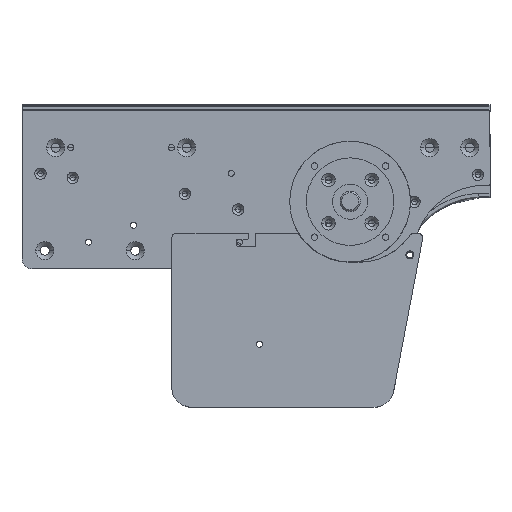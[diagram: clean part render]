
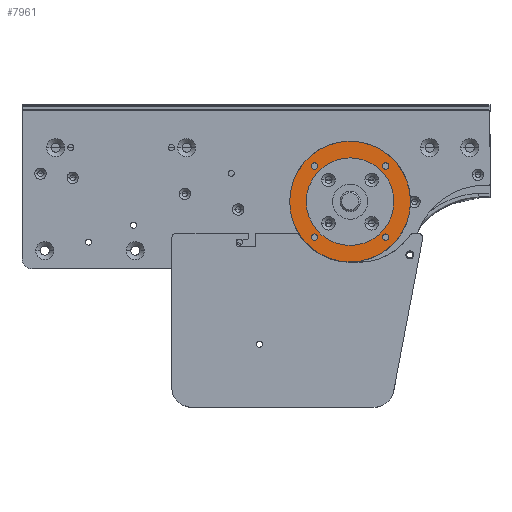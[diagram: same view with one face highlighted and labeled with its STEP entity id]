
A CAD part, top view. The second image highlights one B-rep face of the part: STEP entity #7961.
In plain terms, the highlighted planar face has unit normal (0, 0, 1).
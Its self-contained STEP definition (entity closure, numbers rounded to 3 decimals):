
#32 = VERTEX_POINT ( 'NONE', #13657 ) ;
#86 = CARTESIAN_POINT ( 'NONE',  ( 293.845, -18.342, 71. ) ) ;
#99 = VERTEX_POINT ( 'NONE', #9388 ) ;
#211 = CARTESIAN_POINT ( 'NONE',  ( 386.001, -53.698, 71. ) ) ;
#293 = DIRECTION ( 'NONE',  ( 0., 0., -1. ) ) ;
#768 = CARTESIAN_POINT ( 'NONE',  ( 361.356, -18.342, 71. ) ) ;
#1039 = CIRCLE ( 'NONE', #13085, 60. ) ;
#1254 = DIRECTION ( 'NONE',  ( 0., 0., 1. ) ) ;
#1768 = CARTESIAN_POINT ( 'NONE',  ( 326.001, -53.698, 71. ) ) ;
#1935 = CARTESIAN_POINT ( 'NONE',  ( 326.001, -53.698, 71. ) ) ;
#2038 = VERTEX_POINT ( 'NONE', #6461 ) ;
#2531 = DIRECTION ( 'NONE',  ( -1., 0., 0. ) ) ;
#2632 = CARTESIAN_POINT ( 'NONE',  ( 290.645, -89.053, 71. ) ) ;
#2872 = VERTEX_POINT ( 'NONE', #8657 ) ;
#3012 = DIRECTION ( 'NONE',  ( 1., 0., 0. ) ) ;
#3186 = ORIENTED_EDGE ( 'NONE', *, *, #9091, .F. ) ;
#3346 = DIRECTION ( 'NONE',  ( -1., 0., 0. ) ) ;
#3364 = ORIENTED_EDGE ( 'NONE', *, *, #11247, .F. ) ;
#3455 = DIRECTION ( 'NONE',  ( 0., 0., 1. ) ) ;
#3487 = FACE_BOUND ( 'NONE', #5211, .T. ) ;
#4020 = ORIENTED_EDGE ( 'NONE', *, *, #18579, .F. ) ;
#4091 = EDGE_CURVE ( 'NONE', #8716, #17312, #1039, .T. ) ;
#4130 = DIRECTION ( 'NONE',  ( -1., 0., 0. ) ) ;
#4363 = EDGE_CURVE ( 'NONE', #10760, #11851, #14616, .T. ) ;
#4668 = EDGE_LOOP ( 'NONE', ( #9325, #8023 ) ) ;
#4848 = EDGE_CURVE ( 'NONE', #32, #99, #10469, .T. ) ;
#4964 = PLANE ( 'NONE',  #11613 ) ;
#5201 = AXIS2_PLACEMENT_3D ( 'NONE', #768, #8577, #13114 ) ;
#5211 = EDGE_LOOP ( 'NONE', ( #3186, #3364 ) ) ;
#5217 = CARTESIAN_POINT ( 'NONE',  ( 290.645, -18.342, 71. ) ) ;
#5429 = CIRCLE ( 'NONE', #7716, 3.2 ) ;
#5478 = CARTESIAN_POINT ( 'NONE',  ( 361.356, -89.053, 71. ) ) ;
#5573 = CARTESIAN_POINT ( 'NONE',  ( 361.356, -18.342, 71. ) ) ;
#5660 = DIRECTION ( 'NONE',  ( 1., 0., 0. ) ) ;
#5804 = VERTEX_POINT ( 'NONE', #9200 ) ;
#5917 = FACE_OUTER_BOUND ( 'NONE', #8631, .T. ) ;
#6080 = DIRECTION ( 'NONE',  ( 1., 0., 0. ) ) ;
#6233 = VERTEX_POINT ( 'NONE', #86 ) ;
#6461 = CARTESIAN_POINT ( 'NONE',  ( 282.501, -53.698, 71. ) ) ;
#6647 = FACE_BOUND ( 'NONE', #4668, .T. ) ;
#6712 = DIRECTION ( 'NONE',  ( 0., 0., 1. ) ) ;
#6714 = CARTESIAN_POINT ( 'NONE',  ( 358.156, -89.053, 71. ) ) ;
#6751 = ORIENTED_EDGE ( 'NONE', *, *, #18811, .F. ) ;
#6768 = DIRECTION ( 'NONE',  ( 1., 0., 0. ) ) ;
#7007 = EDGE_LOOP ( 'NONE', ( #19967, #13844 ) ) ;
#7619 = FACE_BOUND ( 'NONE', #7007, .T. ) ;
#7716 = AXIS2_PLACEMENT_3D ( 'NONE', #5478, #10158, #14817 ) ;
#7784 = EDGE_CURVE ( 'NONE', #6233, #18716, #7874, .T. ) ;
#7874 = CIRCLE ( 'NONE', #14334, 3.2 ) ;
#7897 = CIRCLE ( 'NONE', #17172, 60. ) ;
#7961 = ADVANCED_FACE ( 'NONE', ( #12706, #7619, #10046, #6647, #3487, #5917 ), #4964, .F. ) ;
#8023 = ORIENTED_EDGE ( 'NONE', *, *, #19097, .F. ) ;
#8577 = DIRECTION ( 'NONE',  ( 0., 0., 1. ) ) ;
#8631 = EDGE_LOOP ( 'NONE', ( #6751, #15734 ) ) ;
#8657 = CARTESIAN_POINT ( 'NONE',  ( 369.501, -53.698, 71. ) ) ;
#8716 = VERTEX_POINT ( 'NONE', #211 ) ;
#8929 = CARTESIAN_POINT ( 'NONE',  ( 326.001, -53.698, 71. ) ) ;
#9091 = EDGE_CURVE ( 'NONE', #2872, #2038, #17272, .T. ) ;
#9131 = AXIS2_PLACEMENT_3D ( 'NONE', #1935, #3455, #15853 ) ;
#9200 = CARTESIAN_POINT ( 'NONE',  ( 364.556, -89.053, 71. ) ) ;
#9310 = EDGE_LOOP ( 'NONE', ( #12307, #4020 ) ) ;
#9325 = ORIENTED_EDGE ( 'NONE', *, *, #4848, .F. ) ;
#9388 = CARTESIAN_POINT ( 'NONE',  ( 358.156, -18.342, 71. ) ) ;
#10046 = FACE_BOUND ( 'NONE', #15963, .T. ) ;
#10101 = CARTESIAN_POINT ( 'NONE',  ( 290.645, -18.342, 71. ) ) ;
#10126 = DIRECTION ( 'NONE',  ( 0., 0., 1. ) ) ;
#10149 = EDGE_CURVE ( 'NONE', #5804, #11195, #18311, .T. ) ;
#10158 = DIRECTION ( 'NONE',  ( 0., 0., 1. ) ) ;
#10429 = AXIS2_PLACEMENT_3D ( 'NONE', #5573, #10126, #19206 ) ;
#10469 = CIRCLE ( 'NONE', #5201, 3.2 ) ;
#10545 = AXIS2_PLACEMENT_3D ( 'NONE', #10101, #16269, #13079 ) ;
#10760 = VERTEX_POINT ( 'NONE', #16160 ) ;
#11195 = VERTEX_POINT ( 'NONE', #6714 ) ;
#11247 = EDGE_CURVE ( 'NONE', #2038, #2872, #19201, .T. ) ;
#11613 = AXIS2_PLACEMENT_3D ( 'NONE', #1768, #293, #3346 ) ;
#11755 = ORIENTED_EDGE ( 'NONE', *, *, #10149, .F. ) ;
#11758 = EDGE_CURVE ( 'NONE', #11851, #10760, #19924, .T. ) ;
#11851 = VERTEX_POINT ( 'NONE', #19605 ) ;
#12082 = DIRECTION ( 'NONE',  ( 1., 0., 0. ) ) ;
#12125 = AXIS2_PLACEMENT_3D ( 'NONE', #13327, #18010, #5660 ) ;
#12307 = ORIENTED_EDGE ( 'NONE', *, *, #7784, .F. ) ;
#12706 = FACE_BOUND ( 'NONE', #9310, .T. ) ;
#13079 = DIRECTION ( 'NONE',  ( 1., 0., 0. ) ) ;
#13085 = AXIS2_PLACEMENT_3D ( 'NONE', #17867, #16499, #2531 ) ;
#13114 = DIRECTION ( 'NONE',  ( 1., 0., 0. ) ) ;
#13327 = CARTESIAN_POINT ( 'NONE',  ( 361.356, -89.053, 71. ) ) ;
#13345 = DIRECTION ( 'NONE',  ( 0., 0., -1. ) ) ;
#13360 = DIRECTION ( 'NONE',  ( 0., 0., 1. ) ) ;
#13657 = CARTESIAN_POINT ( 'NONE',  ( 364.556, -18.342, 71. ) ) ;
#13844 = ORIENTED_EDGE ( 'NONE', *, *, #11758, .F. ) ;
#13984 = CARTESIAN_POINT ( 'NONE',  ( 290.645, -89.053, 71. ) ) ;
#14334 = AXIS2_PLACEMENT_3D ( 'NONE', #5217, #6712, #6768 ) ;
#14522 = EDGE_CURVE ( 'NONE', #11195, #5804, #5429, .T. ) ;
#14567 = CARTESIAN_POINT ( 'NONE',  ( 287.445, -18.342, 71. ) ) ;
#14616 = CIRCLE ( 'NONE', #19485, 3.2 ) ;
#14715 = AXIS2_PLACEMENT_3D ( 'NONE', #2632, #13360, #12082 ) ;
#14817 = DIRECTION ( 'NONE',  ( 1., 0., 0. ) ) ;
#15354 = DIRECTION ( 'NONE',  ( 0., 0., 1. ) ) ;
#15734 = ORIENTED_EDGE ( 'NONE', *, *, #4091, .F. ) ;
#15853 = DIRECTION ( 'NONE',  ( 1., 0., 0. ) ) ;
#15963 = EDGE_LOOP ( 'NONE', ( #11755, #19873 ) ) ;
#16160 = CARTESIAN_POINT ( 'NONE',  ( 293.845, -89.053, 71. ) ) ;
#16269 = DIRECTION ( 'NONE',  ( 0., 0., 1. ) ) ;
#16499 = DIRECTION ( 'NONE',  ( 0., 0., -1. ) ) ;
#16871 = CARTESIAN_POINT ( 'NONE',  ( 266.001, -53.698, 71. ) ) ;
#17128 = CIRCLE ( 'NONE', #10545, 3.2 ) ;
#17172 = AXIS2_PLACEMENT_3D ( 'NONE', #8929, #13345, #4130 ) ;
#17269 = AXIS2_PLACEMENT_3D ( 'NONE', #18290, #1254, #6080 ) ;
#17272 = CIRCLE ( 'NONE', #17269, 43.5 ) ;
#17312 = VERTEX_POINT ( 'NONE', #16871 ) ;
#17867 = CARTESIAN_POINT ( 'NONE',  ( 326.001, -53.698, 71. ) ) ;
#18010 = DIRECTION ( 'NONE',  ( 0., 0., 1. ) ) ;
#18166 = CIRCLE ( 'NONE', #10429, 3.2 ) ;
#18290 = CARTESIAN_POINT ( 'NONE',  ( 326.001, -53.698, 71. ) ) ;
#18311 = CIRCLE ( 'NONE', #12125, 3.2 ) ;
#18579 = EDGE_CURVE ( 'NONE', #18716, #6233, #17128, .T. ) ;
#18716 = VERTEX_POINT ( 'NONE', #14567 ) ;
#18811 = EDGE_CURVE ( 'NONE', #17312, #8716, #7897, .T. ) ;
#19097 = EDGE_CURVE ( 'NONE', #99, #32, #18166, .T. ) ;
#19201 = CIRCLE ( 'NONE', #9131, 43.5 ) ;
#19206 = DIRECTION ( 'NONE',  ( 1., 0., 0. ) ) ;
#19485 = AXIS2_PLACEMENT_3D ( 'NONE', #13984, #15354, #3012 ) ;
#19605 = CARTESIAN_POINT ( 'NONE',  ( 287.445, -89.053, 71. ) ) ;
#19873 = ORIENTED_EDGE ( 'NONE', *, *, #14522, .F. ) ;
#19924 = CIRCLE ( 'NONE', #14715, 3.2 ) ;
#19967 = ORIENTED_EDGE ( 'NONE', *, *, #4363, .F. ) ;
